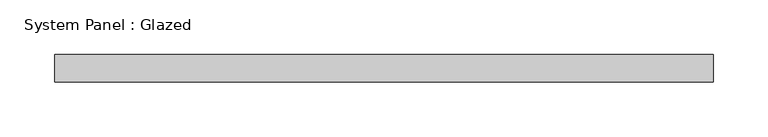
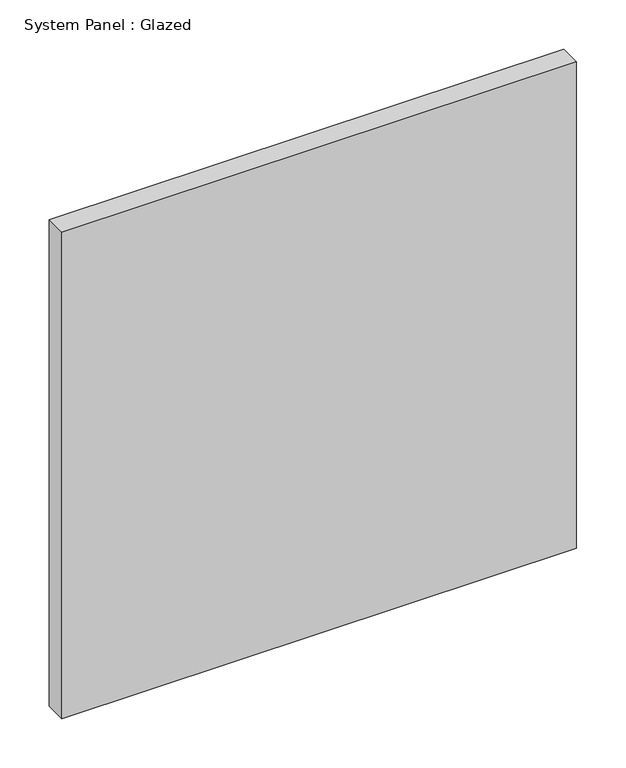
"""IFC4 building model written with IfcOpenShell, lengths in millimetres: plate geometry, System Panel : Glazed."""

from ifc_helpers import new_model, si_unit, origin, origin_with_axes, place, context, project, spatial, polyline, outline, extrude, source, transform, mapped, element, save


def system_panel_glazed_24812111(model_context):
    return source(origin(), model_context, "Body", "SweptSolid", [
        extrude(outline(polyline([(300.0, 24.5), (-300.0, 24.5), (-300.0, 49.5), (300.0, 49.5), (300.0, 24.5)])), origin_with_axes(), (0.0, 0.0, 1.0), 600.0),
    ])


if __name__ == "__main__":
    model = new_model("IFC4")
    model_context = context("Model", 3, world=origin())
    ifc_project = project(units=[si_unit("LENGTHUNIT", "METRE", prefix="MILLI")], contexts=[model_context])
    site = spatial("IfcSite", under=ifc_project)
    building = spatial("IfcBuilding", under=site)
    placement = place(None, origin())
    system_panel_glazed_shape = system_panel_glazed_24812111(model_context)
    element("IfcPlate", 1, ObjectType="System Panel : Glazed", at=placement, inside=building, context=model_context, shape_type="MappedRepresentation", body=[
        mapped(system_panel_glazed_shape, transform((0.0, 0.0, 0.0), x_axis=(1.0, 0.0, 0.0), y_axis=(0.0, 1.0, 0.0), z_axis=(0.0, 0.0, 1.0))),
    ])
    save(model, "model.ifc")
